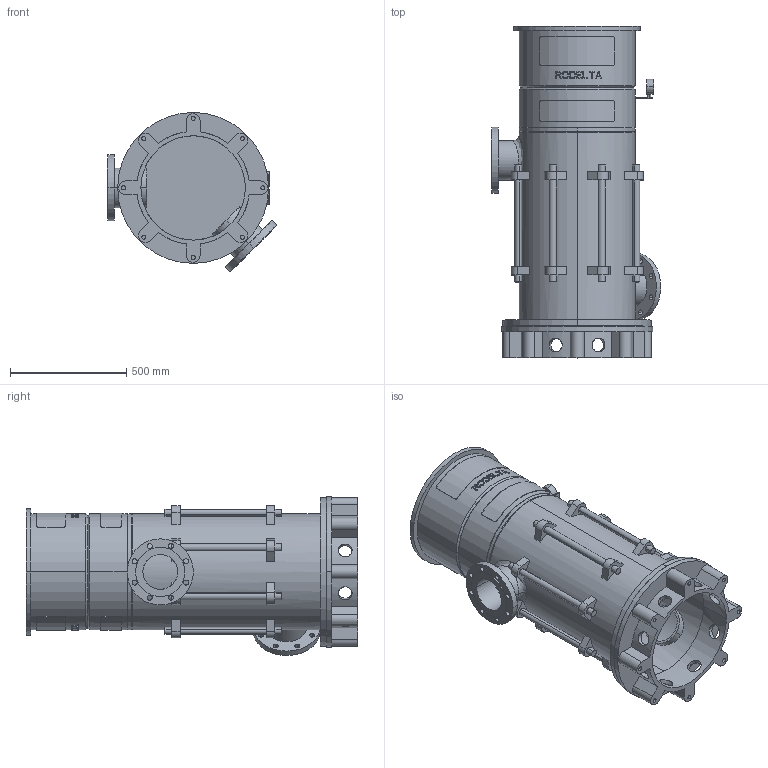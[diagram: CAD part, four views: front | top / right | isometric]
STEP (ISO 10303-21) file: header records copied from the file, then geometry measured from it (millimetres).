
FILE_DESCRIPTION((''),'2;1');
FILE_NAME('LS6_3TR_0GR_PN16_ABOVE_30KW','2025-10-23T12:01:01',('Lyritlocal'),(''),'CREO PARAMETRIC BY PTC INC, 2022014','CREO PARAMETRIC BY PTC INC, 2022014','');
FILE_SCHEMA(('CONFIG_CONTROL_DESIGN'));
Length unit declared in the file: millimetre
Products named in the file (1): LS6_3TR_0GR_PN16_ABOVE_30KW
Bounding box: 730.27 x 1429 x 685.27 mm (x, y, z)
Volume: 49703043.6 mm3; surface area: 6671413.1 mm2
Topology: 3 solids, 11 shells, 732 faces, 1889 edges, 1258 vertices
Faces by surface type: plane 438, cylinder 274, cone 12, bspline 8
Entity records: 24339 total; most frequent: CARTESIAN_POINT 6519, ORIENTED_EDGE 3746, DIRECTION 3535, EDGE_CURVE 1889, AXIS2_PLACEMENT_3D 1341, VERTEX_POINT 1258, EDGE_LOOP 895, VECTOR 853
